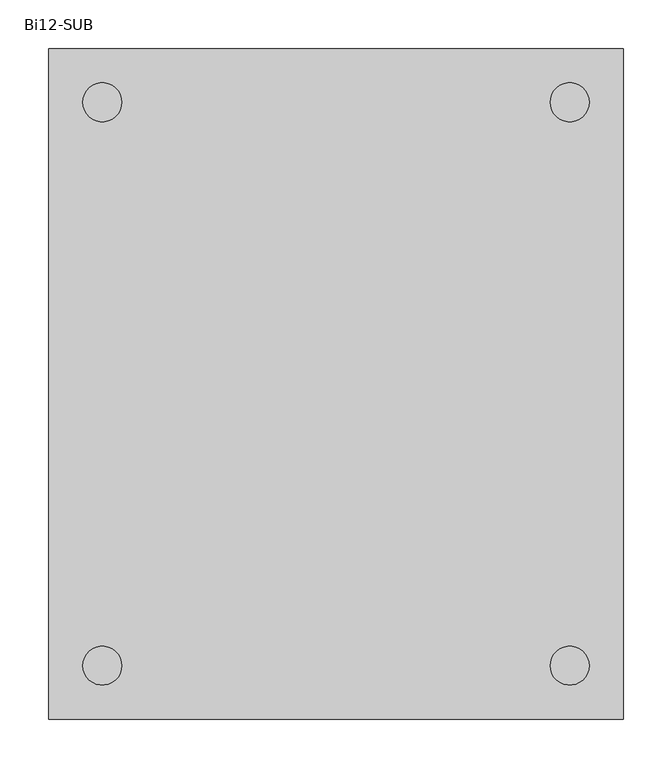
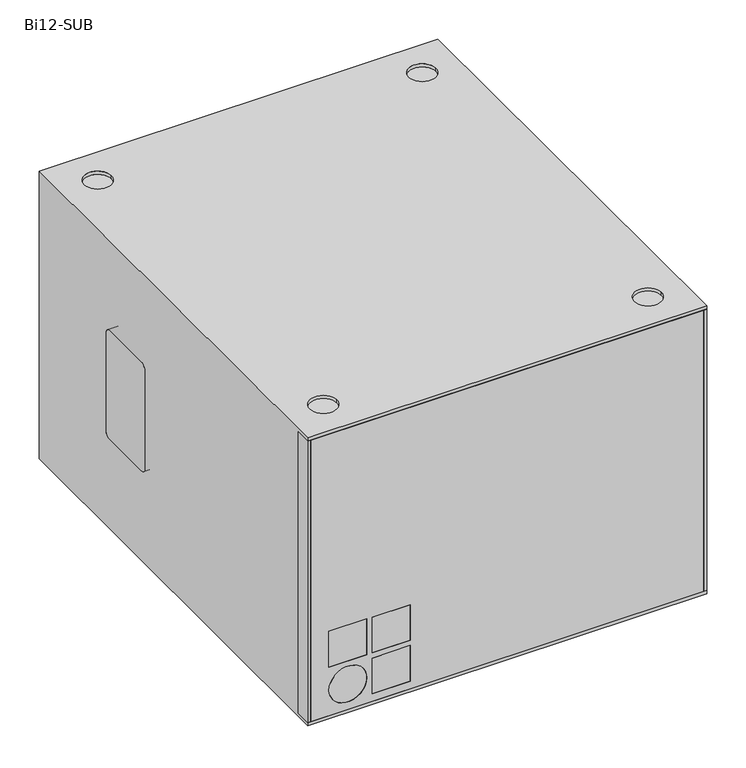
"""IFC4 building model written with IfcOpenShell, lengths in millimetres: proxy geometry, d&b Bi12-SUB : Bi12-SUB."""

from ifc_helpers import new_model, si_unit, point, frame, frame_2d, origin, origin_with_axes, place, context, project, spatial, polyline, circle_curve, trimmed, segment, composite_curve, outline, extrude, source, transform, mapped, element, save
from ifc_brep_helpers import plane_surface, revolved_surface, advanced_brep


def bi12_sub_8aa10a98(model_context):
    return source(origin(), model_context, "Body", "SolidModel", [
        extrude(outline(composite_curve([segment(polyline([(129.0, 2617.0), (129.0, 2538.0890284)]), True, "CONTINUOUS"), segment(trimmed(circle_curve(frame_2d((120.0, 2538.0890284)), 9.0), [point((129.0, 2538.0890284))], [point((117.6706286, 2529.3956959))], False, "CARTESIAN"), True, "CONTINUOUS"), segment(polyline([(117.6706286, 2529.3956959), (42.6706286, 2549.4918854)]), True, "CONTINUOUS"), segment(trimmed(circle_curve(frame_2d((45.0, 2558.1852178)), 9.0), [point((42.6706286, 2549.4918854))], [point((36.0, 2558.1852178))], False, "CARTESIAN"), True, "CONTINUOUS"), segment(polyline([(36.0, 2558.1852178), (36.0, 2617.0)]), True, "CONTINUOUS"), segment(trimmed(circle_curve(frame_2d((45.0, 2617.0)), 9.0), [point((36.0, 2617.0))], [point((45.0, 2626.0))], False, "CARTESIAN"), True, "CONTINUOUS"), segment(polyline([(45.0, 2626.0), (120.0, 2626.0)]), True, "CONTINUOUS"), segment(trimmed(circle_curve(frame_2d((120.0, 2617.0)), 9.0), [point((120.0, 2626.0))], [point((129.0, 2617.0))], False, "CARTESIAN"), True, "CONTINUOUS")], self_intersect=False)), frame((0.0, 622.2505973, 0.0), z_axis=(0.0, 1.0, 0.0), x_axis=(0.0, 0.0, 1.0)), (0.0, 0.0, 1.0), 5.0),
        extrude(outline(composite_curve([segment(trimmed(circle_curve(frame_2d((120.0, 2383.0)), 9.0), [point((129.0, 2383.0))], [point((120.0, 2374.0))], False, "CARTESIAN"), True, "CONTINUOUS"), segment(polyline([(120.0, 2374.0), (45.0, 2374.0)]), True, "CONTINUOUS"), segment(trimmed(circle_curve(frame_2d((45.0, 2383.0)), 9.0), [point((45.0, 2374.0))], [point((36.0, 2383.0))], False, "CARTESIAN"), True, "CONTINUOUS"), segment(polyline([(36.0, 2383.0), (36.0, 2441.8147822)]), True, "CONTINUOUS"), segment(trimmed(circle_curve(frame_2d((45.0, 2441.8147822)), 9.0), [point((36.0, 2441.8147822))], [point((42.6706286, 2450.5081146))], False, "CARTESIAN"), True, "CONTINUOUS"), segment(polyline([(42.6706286, 2450.5081146), (117.6706286, 2470.6043041)]), True, "CONTINUOUS"), segment(trimmed(circle_curve(frame_2d((120.0, 2461.9109716)), 9.0), [point((117.6706286, 2470.6043041))], [point((129.0, 2461.9109716))], False, "CARTESIAN"), True, "CONTINUOUS"), segment(polyline([(129.0, 2461.9109716), (129.0, 2383.0)]), True, "CONTINUOUS")], self_intersect=False)), frame((0.0, 622.2505973, 0.0), z_axis=(0.0, 1.0, 0.0), x_axis=(0.0, 0.0, 1.0)), (0.0, 0.0, 1.0), 5.0),
        extrude(outline(composite_curve([segment(trimmed(circle_curve(frame_2d((446.2505973, 306.2)), 9.0), [point((446.2505973, 315.2))], [point((455.2505973, 306.2))], False, "CARTESIAN"), True, "CONTINUOUS"), segment(polyline([(455.2505973, 306.2), (455.2505973, 154.2)]), True, "CONTINUOUS"), segment(trimmed(circle_curve(frame_2d((446.2505973, 154.2)), 9.0), [point((455.2505973, 154.2))], [point((446.2505973, 145.2))], False, "CARTESIAN"), True, "CONTINUOUS"), segment(polyline([(446.2505973, 145.2), (365.2505973, 145.2)]), True, "CONTINUOUS"), segment(trimmed(circle_curve(frame_2d((365.2505973, 154.2)), 9.0), [point((365.2505973, 145.2))], [point((356.2505973, 154.2))], False, "CARTESIAN"), True, "CONTINUOUS"), segment(polyline([(356.2505973, 154.2), (356.2505973, 306.2)]), True, "CONTINUOUS"), segment(trimmed(circle_curve(frame_2d((365.2505973, 306.2)), 9.0), [point((356.2505973, 306.2))], [point((365.2505973, 315.2))], False, "CARTESIAN"), True, "CONTINUOUS"), segment(polyline([(365.2505973, 315.2), (446.2505973, 315.2)]), True, "CONTINUOUS")], self_intersect=False)), frame((2205.0, 0.0, 0.0), z_axis=(1.0, 0.0, 0.0), x_axis=(0.0, 1.0, 0.0)), (0.0, 0.0, 1.0), 70.0),
        extrude(outline(composite_curve([segment(trimmed(circle_curve(frame_2d((446.2505973, 306.2)), 9.0), [point((446.2505973, 315.2))], [point((455.2505973, 306.2))], False, "CARTESIAN"), True, "CONTINUOUS"), segment(polyline([(455.2505973, 306.2), (455.2505973, 154.2)]), True, "CONTINUOUS"), segment(trimmed(circle_curve(frame_2d((446.2505973, 154.2)), 9.0), [point((455.2505973, 154.2))], [point((446.2505973, 145.2))], False, "CARTESIAN"), True, "CONTINUOUS"), segment(polyline([(446.2505973, 145.2), (365.2505973, 145.2)]), True, "CONTINUOUS"), segment(trimmed(circle_curve(frame_2d((365.2505973, 154.2)), 9.0), [point((365.2505973, 145.2))], [point((356.2505973, 154.2))], False, "CARTESIAN"), True, "CONTINUOUS"), segment(polyline([(356.2505973, 154.2), (356.2505973, 306.2)]), True, "CONTINUOUS"), segment(trimmed(circle_curve(frame_2d((365.2505973, 306.2)), 9.0), [point((356.2505973, 306.2))], [point((365.2505973, 315.2))], False, "CARTESIAN"), True, "CONTINUOUS"), segment(polyline([(365.2505973, 315.2), (446.2505973, 315.2)]), True, "CONTINUOUS")], self_intersect=False)), frame((2725.0, 0.0, 0.0), z_axis=(1.0, 0.0, 0.0), x_axis=(0.0, 1.0, 0.0)), (0.0, 0.0, 1.0), 70.0),
        advanced_brep(
        [(2790.5, -60.7494027, 10.0), (2790.5, -36.5494027, 10.0), (2790.5, -36.5494027, 450.0), (2790.5, -60.7494027, 450.0), (2209.5, -60.7494027, 10.0), (2209.5, -60.7494027, 450.0), (2209.5, -36.5494027, 450.0), (2209.5, -36.5494027, 10.0), (2292.5, -60.7494027, 141.5), (2292.5, -60.7494027, 85.5), (2236.5, -60.7494027, 85.5), (2236.5, -60.7494027, 141.5), (2356.5, -60.7494027, 141.5), (2356.5, -60.7494027, 85.5), (2300.5, -60.7494027, 85.5), (2300.5, -60.7494027, 141.5), (2356.5, -60.7494027, 77.5), (2356.5, -60.7494027, 21.5), (2300.5, -60.7494027, 21.5), (2300.5, -60.7494027, 77.5), (2292.5, -60.7494027, 49.5), (2236.5, -60.7494027, 49.5), (2292.5, -50.7494027, 141.5), (2236.5, -50.7494027, 141.5), (2236.5, -50.7494027, 85.5), (2292.5, -50.7494027, 85.5), (2356.5, -50.7494027, 141.5), (2300.5, -50.7494027, 141.5), (2300.5, -50.7494027, 85.5), (2356.5, -50.7494027, 85.5), (2356.5, -50.7494027, 77.5), (2300.5, -50.7494027, 77.5), (2300.5, -50.7494027, 21.5), (2356.5, -50.7494027, 21.5), (2292.5, -50.7494027, 49.5), (2236.5, -50.7494027, 49.5)],
        [
            (0, 1),
            (1, 2),
            (2, 3),
            (3, 0),
            (4, 5),
            (5, 6),
            (6, 7),
            (7, 4),
            (1, 7),
            (6, 2),
            (5, 3),
            (4, 0),
            (8, 9),
            (9, 10),
            (10, 11),
            (11, 8),
            (12, 13),
            (13, 14),
            (14, 15),
            (15, 12),
            (16, 17),
            (17, 18),
            (18, 19),
            (19, 16),
            (20, 21, circle_curve(frame((2264.5, -60.7494027, 49.5), z_axis=(0.0, 1.0, 0.0), x_axis=(-1.0, 0.0, 0.0)), 28.0)),
            (21, 20, circle_curve(frame((2264.5, -60.7494027, 49.5), z_axis=(0.0, 1.0, 0.0), x_axis=(-1.0, 0.0, 0.0)), 28.0)),
            (22, 23),
            (23, 24),
            (24, 25),
            (25, 22),
            (26, 27),
            (27, 28),
            (28, 29),
            (29, 26),
            (30, 31),
            (31, 32),
            (32, 33),
            (33, 30),
            (34, 35, circle_curve(frame((2264.5, -50.7494027, 49.5), z_axis=(0.0, -1.0, 0.0), x_axis=(-1.0, 0.0, 0.0)), 28.0)),
            (35, 34, circle_curve(frame((2264.5, -50.7494027, 49.5), z_axis=(0.0, -1.0, 0.0), x_axis=(-1.0, 0.0, 0.0)), 28.0)),
            (25, 9),
            (8, 22),
            (24, 10),
            (23, 11),
            (29, 13),
            (12, 26),
            (28, 14),
            (27, 15),
            (33, 17),
            (16, 30),
            (32, 18),
            (31, 19),
            (35, 21),
            (20, 34),
        ],
        [
            plane_surface(frame((2790.5, -36.5494027, 10.0), z_axis=(1.0, 0.0, 0.0), x_axis=(0.0, 1.0, 0.0))),
            plane_surface(frame((2209.5, -36.5494027, 10.0), z_axis=(-1.0, 0.0, 0.0), x_axis=(0.0, -1.0, 0.0))),
            plane_surface(frame((2790.5, -36.5494027, 10.0), z_axis=(0.0, 1.0, 0.0), x_axis=(-1.0, 0.0, 0.0))),
            plane_surface(frame((2790.5, -36.5494027, 450.0), z_axis=(0.0, 0.0, 1.0), x_axis=(-1.0, 0.0, 0.0))),
            plane_surface(frame((2790.5, -60.7494027, 450.0), z_axis=(0.0, -1.0, 0.0), x_axis=(-1.0, 0.0, 0.0))),
            plane_surface(frame((2292.5, -50.7494027, 131.0), z_axis=(0.0, -1.0, 0.0), x_axis=(0.0, 0.0, -1.0))),
            plane_surface(frame((2292.5, -50.7494027, 141.5), z_axis=(-1.0, 0.0, 0.0), x_axis=(0.0, -1.0, 0.0))),
            plane_surface(frame((2292.5, -50.7494027, 85.5), z_axis=(0.0, 0.0, 1.0), x_axis=(0.0, -1.0, 0.0))),
            plane_surface(frame((2236.5, -50.7494027, 85.5), z_axis=(1.0, 0.0, 0.0), x_axis=(0.0, -1.0, 0.0))),
            plane_surface(frame((2236.5, -50.7494027, 141.5), z_axis=(0.0, 0.0, -1.0), x_axis=(0.0, -1.0, 0.0))),
            plane_surface(frame((2356.5, -50.7494027, 141.5), z_axis=(-1.0, 0.0, 0.0), x_axis=(0.0, -1.0, 0.0))),
            plane_surface(frame((2356.5, -50.7494027, 85.5), z_axis=(0.0, 0.0, 1.0), x_axis=(0.0, -1.0, 0.0))),
            plane_surface(frame((2300.5, -50.7494027, 85.5), z_axis=(1.0, 0.0, 0.0), x_axis=(0.0, -1.0, 0.0))),
            plane_surface(frame((2300.5, -50.7494027, 141.5), z_axis=(0.0, 0.0, -1.0), x_axis=(0.0, -1.0, 0.0))),
            plane_surface(frame((2356.5, -50.7494027, 77.5), z_axis=(-1.0, 0.0, 0.0), x_axis=(0.0, -1.0, 0.0))),
            plane_surface(frame((2356.5, -50.7494027, 21.5), z_axis=(0.0, 0.0, 1.0), x_axis=(0.0, -1.0, 0.0))),
            plane_surface(frame((2300.5, -50.7494027, 21.5), z_axis=(1.0, 0.0, 0.0), x_axis=(0.0, -1.0, 0.0))),
            plane_surface(frame((2300.5, -50.7494027, 77.5), z_axis=(0.0, 0.0, -1.0), x_axis=(0.0, -1.0, 0.0))),
            revolved_surface(polyline([(2236.5, -50.7494027, 49.5), (2236.5, -60.7494027, 49.5)]), (2264.5, -60.7494027, 49.5), (0.0, 1.0, 0.0)),
            plane_surface(frame((2790.5, -60.7494027, 10.0), z_axis=(0.0, 0.0, -1.0), x_axis=(-1.0, 0.0, 0.0))),
        ],
        [
            (0, [[1, 2, 3, 4]]),
            (1, [[5, 6, 7, 8]]),
            (2, [[-2, 9, -7, 10]]),
            (3, [[-3, -10, -6, 11]]),
            (4, [[-4, -11, -5, 12], [13, 14, 15, 16], [17, 18, 19, 20], [21, 22, 23, 24], [25, 26]]),
            (5, [[27, 28, 29, 30]]),
            (5, [[31, 32, 33, 34]]),
            (5, [[35, 36, 37, 38]]),
            (5, [[39, 40]]),
            (6, [[-30, 41, -13, 42]]),
            (7, [[-29, 43, -14, -41]]),
            (8, [[-28, 44, -15, -43]]),
            (9, [[-27, -42, -16, -44]]),
            (10, [[-34, 45, -17, 46]]),
            (11, [[-33, 47, -18, -45]]),
            (12, [[-32, 48, -19, -47]]),
            (13, [[-31, -46, -20, -48]]),
            (14, [[-38, 49, -21, 50]]),
            (15, [[-37, 51, -22, -49]]),
            (16, [[-36, 52, -23, -51]]),
            (17, [[-35, -50, -24, -52]]),
            (18, [[-40, 53, -25, 54]]),
            (18, [[-39, -54, -26, -53]]),
            (19, [[-1, -12, -8, -9]]),
        ],
    ),
        extrude(outline(polyline([(2790.5, -60.7494027), (2790.5, -36.5494027), (2795.0, -36.5494027), (2795.0, -60.7494027), (2790.5, -60.7494027)])), frame((0.0, 0.0, 10.0), z_axis=(0.0, 0.0, 1.0), x_axis=(1.0, 0.0, 0.0)), (0.0, 0.0, 1.0), 440.0),
        extrude(outline(polyline([(2209.5, -36.5494027), (2209.5, -60.7494027), (2205.0, -60.7494027), (2205.0, -36.5494027), (2209.5, -36.5494027)])), frame((0.0, 0.0, 10.0), z_axis=(0.0, 0.0, 1.0), x_axis=(1.0, 0.0, 0.0)), (0.0, 0.0, 1.0), 440.0),
        extrude(outline(composite_curve([segment(trimmed(circle_curve(frame_2d((395.0, 2612.0)), 13.0), [point((395.0, 2625.0))], [point((408.0, 2612.0))], False, "CARTESIAN"), True, "CONTINUOUS"), segment(polyline([(408.0, 2612.0), (408.0, 2388.0)]), True, "CONTINUOUS"), segment(trimmed(circle_curve(frame_2d((395.0, 2388.0)), 13.0), [point((408.0, 2388.0))], [point((395.0, 2375.0))], False, "CARTESIAN"), True, "CONTINUOUS"), segment(polyline([(395.0, 2375.0), (145.0, 2375.0)]), True, "CONTINUOUS"), segment(trimmed(circle_curve(frame_2d((145.0, 2388.0)), 13.0), [point((145.0, 2375.0))], [point((132.0, 2388.0))], False, "CARTESIAN"), True, "CONTINUOUS"), segment(polyline([(132.0, 2388.0), (132.0, 2612.0)]), True, "CONTINUOUS"), segment(trimmed(circle_curve(frame_2d((145.0, 2612.0)), 13.0), [point((132.0, 2612.0))], [point((145.0, 2625.0))], False, "CARTESIAN"), True, "CONTINUOUS"), segment(polyline([(145.0, 2625.0), (395.0, 2625.0)]), True, "CONTINUOUS")], self_intersect=False)), frame((0.0, 622.2505973, 0.0), z_axis=(0.0, 1.0, 0.0), x_axis=(0.0, 0.0, 1.0)), (0.0, 0.0, 1.0), 5.0),
        extrude(outline(composite_curve([segment(trimmed(circle_curve(frame_2d((2260.0, 572.2505973)), 20.0), [point((2280.0, 572.2505973))], [point((2240.0, 572.2505973))], False, "CARTESIAN"), True, "CONTINUOUS"), segment(trimmed(circle_curve(frame_2d((2260.0, 572.2505973)), 20.0), [point((2240.0, 572.2505973))], [point((2280.0, 572.2505973))], False, "CARTESIAN"), True, "CONTINUOUS")], self_intersect=False)), origin_with_axes(), (0.0, 0.0, 1.0), 5.0),
        extrude(outline(composite_curve([segment(trimmed(circle_curve(frame_2d((2260.0, -5.7494027)), 20.0), [point((2280.0, -5.7494027))], [point((2240.0, -5.7494027))], False, "CARTESIAN"), True, "CONTINUOUS"), segment(trimmed(circle_curve(frame_2d((2260.0, -5.7494027)), 20.0), [point((2240.0, -5.7494027))], [point((2280.0, -5.7494027))], False, "CARTESIAN"), True, "CONTINUOUS")], self_intersect=False)), origin_with_axes(), (0.0, 0.0, 1.0), 5.0),
        extrude(outline(composite_curve([segment(trimmed(circle_curve(frame_2d((2740.0, 572.2505973)), 20.0), [point((2760.0, 572.2505973))], [point((2720.0, 572.2505973))], False, "CARTESIAN"), True, "CONTINUOUS"), segment(trimmed(circle_curve(frame_2d((2740.0, 572.2505973)), 20.0), [point((2720.0, 572.2505973))], [point((2760.0, 572.2505973))], False, "CARTESIAN"), True, "CONTINUOUS")], self_intersect=False)), origin_with_axes(), (0.0, 0.0, 1.0), 5.0),
        extrude(outline(composite_curve([segment(trimmed(circle_curve(frame_2d((2740.0, -5.7494027)), 20.0), [point((2760.0, -5.7494027))], [point((2720.0, -5.7494027))], False, "CARTESIAN"), True, "CONTINUOUS"), segment(trimmed(circle_curve(frame_2d((2740.0, -5.7494027)), 20.0), [point((2720.0, -5.7494027))], [point((2760.0, -5.7494027))], False, "CARTESIAN"), True, "CONTINUOUS")], self_intersect=False)), origin_with_axes(), (0.0, 0.0, 1.0), 5.0),
        extrude(outline(polyline([(2236.5, -50.7494027), (2292.5, -50.7494027), (2292.5, -60.7494027), (2236.5, -60.7494027), (2236.5, -50.7494027)])), frame((0.0, 0.0, 85.5), z_axis=(0.0, 0.0, 1.0), x_axis=(1.0, 0.0, 0.0)), (0.0, 0.0, 1.0), 56.0),
        extrude(outline(polyline([(2300.5, -50.7494027), (2356.5, -50.7494027), (2356.5, -60.7494027), (2300.5, -60.7494027), (2300.5, -50.7494027)])), frame((0.0, 0.0, 85.5), z_axis=(0.0, 0.0, 1.0), x_axis=(1.0, 0.0, 0.0)), (0.0, 0.0, 1.0), 56.0),
        extrude(outline(polyline([(2300.5, -50.7494027), (2356.5, -50.7494027), (2356.5, -60.7494027), (2300.5, -60.7494027), (2300.5, -50.7494027)])), frame((0.0, 0.0, 21.5), z_axis=(0.0, 0.0, 1.0), x_axis=(1.0, 0.0, 0.0)), (0.0, 0.0, 1.0), 56.0),
        extrude(outline(composite_curve([segment(trimmed(circle_curve(frame_2d((49.5, 2264.5)), 28.0), [point((49.5, 2292.5))], [point((49.5, 2236.5))], False, "CARTESIAN"), True, "CONTINUOUS"), segment(trimmed(circle_curve(frame_2d((49.5, 2264.5)), 28.0), [point((49.5, 2236.5))], [point((49.5, 2292.5))], False, "CARTESIAN"), True, "CONTINUOUS")], self_intersect=False)), frame((0.0, -60.7494027, 0.0), z_axis=(0.0, 1.0, 0.0), x_axis=(0.0, 0.0, 1.0)), (0.0, 0.0, 1.0), 10.0),
        advanced_brep(
        [(2795.0, -60.7494027, 5.0), (2205.0, -60.7494027, 5.0), (2205.0, 627.2505973, 5.0), (2795.0, 627.2505973, 5.0), (2240.0, 572.2505973, 450.0), (2280.0, 572.2505973, 450.0), (2240.0, -5.7494027, 450.0), (2280.0, -5.7494027, 450.0), (2720.0, 572.2505973, 450.0), (2760.0, 572.2505973, 450.0), (2720.0, -5.7494027, 450.0), (2760.0, -5.7494027, 450.0), (2795.0, 627.2505973, 455.0), (2205.0, 627.2505973, 455.0), (2205.0, -60.7494027, 455.0), (2795.0, -60.7494027, 455.0), (2280.0, 572.2505973, 455.0), (2240.0, 572.2505973, 455.0), (2280.0, -5.7494027, 455.0), (2240.0, -5.7494027, 455.0), (2760.0, 572.2505973, 455.0), (2720.0, 572.2505973, 455.0), (2760.0, -5.7494027, 455.0), (2720.0, -5.7494027, 455.0), (2718.5, 622.2505973, 271.0), (2729.0, 622.2505973, 260.5), (2729.0, 622.2505973, 159.5), (2718.5, 622.2505973, 149.0), (2674.5, 622.2505973, 149.0), (2664.0, 622.2505973, 159.5), (2664.0, 622.2505973, 260.5), (2674.5, 622.2505973, 271.0), (2281.5, 622.2505973, 271.0), (2325.5, 622.2505973, 271.0), (2336.0, 622.2505973, 260.5), (2336.0, 622.2505973, 159.5), (2325.5, 622.2505973, 149.0), (2281.5, 622.2505973, 149.0), (2271.0, 622.2505973, 159.5), (2271.0, 622.2505973, 260.5), (2795.0, -36.5494027, 450.0), (2205.0, -36.5494027, 450.0), (2205.0, -36.5494027, 10.0), (2795.0, -36.5494027, 10.0), (2725.0, 455.2505973, 306.2), (2725.0, 446.2505973, 315.2), (2725.0, 365.2505973, 315.2), (2725.0, 356.2505973, 306.2), (2725.0, 356.2505973, 154.2), (2725.0, 365.2505973, 145.2), (2725.0, 446.2505973, 145.2), (2725.0, 455.2505973, 154.2), (2795.0, -60.7494027, 450.0), (2205.0, -60.7494027, 450.0), (2325.5, 627.2505973, 271.0), (2281.5, 627.2505973, 271.0), (2271.0, 627.2505973, 260.5), (2271.0, 627.2505973, 159.5), (2281.5, 627.2505973, 149.0), (2325.5, 627.2505973, 149.0), (2336.0, 627.2505973, 159.5), (2336.0, 627.2505973, 260.5), (2729.0, 627.2505973, 260.5), (2718.5, 627.2505973, 271.0), (2674.5, 627.2505973, 271.0), (2664.0, 627.2505973, 260.5), (2664.0, 627.2505973, 159.5), (2674.5, 627.2505973, 149.0), (2718.5, 627.2505973, 149.0), (2729.0, 627.2505973, 159.5), (2625.0, 627.2505973, 145.0), (2625.0, 627.2505973, 395.0), (2612.0, 627.2505973, 408.0), (2388.0, 627.2505973, 408.0), (2375.0, 627.2505973, 395.0), (2375.0, 627.2505973, 145.0), (2388.0, 627.2505973, 132.0), (2612.0, 627.2505973, 132.0), (2549.4918854, 627.2505973, 42.6706286), (2558.1852178, 627.2505973, 36.0), (2617.0, 627.2505973, 36.0), (2626.0, 627.2505973, 45.0), (2626.0, 627.2505973, 120.0), (2617.0, 627.2505973, 129.0), (2538.0890284, 627.2505973, 129.0), (2529.3956959, 627.2505973, 117.6706286), (2450.5081146, 627.2505973, 42.6706286), (2470.6043041, 627.2505973, 117.6706286), (2461.9109716, 627.2505973, 129.0), (2383.0, 627.2505973, 129.0), (2374.0, 627.2505973, 120.0), (2374.0, 627.2505973, 45.0), (2383.0, 627.2505973, 36.0), (2441.8147822, 627.2505973, 36.0), (2275.0, 446.2505973, 315.2), (2275.0, 455.2505973, 306.2), (2275.0, 455.2505973, 154.2), (2275.0, 446.2505973, 145.2), (2275.0, 365.2505973, 145.2), (2275.0, 356.2505973, 154.2), (2275.0, 356.2505973, 306.2), (2275.0, 365.2505973, 315.2), (2795.0, -60.7494027, 10.0), (2795.0, 446.2505973, 315.2), (2795.0, 455.2505973, 306.2), (2795.0, 455.2505973, 154.2), (2795.0, 446.2505973, 145.2), (2795.0, 365.2505973, 145.2), (2795.0, 356.2505973, 154.2), (2795.0, 356.2505973, 306.2), (2795.0, 365.2505973, 315.2), (2205.0, -60.7494027, 10.0), (2205.0, 446.2505973, 315.2), (2205.0, 365.2505973, 315.2), (2205.0, 356.2505973, 306.2), (2205.0, 356.2505973, 154.2), (2205.0, 365.2505973, 145.2), (2205.0, 446.2505973, 145.2), (2205.0, 455.2505973, 154.2), (2205.0, 455.2505973, 306.2), (2625.0, 622.2505973, 395.0), (2625.0, 622.2505973, 145.0), (2612.0, 622.2505973, 132.0), (2388.0, 622.2505973, 132.0), (2375.0, 622.2505973, 145.0), (2375.0, 622.2505973, 395.0), (2388.0, 622.2505973, 408.0), (2612.0, 622.2505973, 408.0), (2558.1852178, 622.2505973, 36.0), (2549.4918854, 622.2505973, 42.6706286), (2529.3956959, 622.2505973, 117.6706286), (2538.0890284, 622.2505973, 129.0), (2617.0, 622.2505973, 129.0), (2626.0, 622.2505973, 120.0), (2626.0, 622.2505973, 45.0), (2617.0, 622.2505973, 36.0), (2470.6043041, 622.2505973, 117.6706286), (2450.5081146, 622.2505973, 42.6706286), (2441.8147822, 622.2505973, 36.0), (2383.0, 622.2505973, 36.0), (2374.0, 622.2505973, 45.0), (2374.0, 622.2505973, 120.0), (2383.0, 622.2505973, 129.0), (2461.9109716, 622.2505973, 129.0)],
        [
            (0, 1),
            (1, 2),
            (2, 3),
            (3, 0),
            (4, 5, circle_curve(frame((2260.0, 572.2505973, 450.0), z_axis=(0.0, 0.0, 1.0), x_axis=(-1.0, 0.0, 0.0)), 20.0)),
            (5, 4, circle_curve(frame((2260.0, 572.2505973, 450.0), z_axis=(0.0, 0.0, 1.0), x_axis=(-1.0, 0.0, 0.0)), 20.0)),
            (6, 7, circle_curve(frame((2260.0, -5.7494027, 450.0), z_axis=(0.0, 0.0, 1.0), x_axis=(-1.0, 0.0, 0.0)), 20.0)),
            (7, 6, circle_curve(frame((2260.0, -5.7494027, 450.0), z_axis=(0.0, 0.0, 1.0), x_axis=(-1.0, 0.0, 0.0)), 20.0)),
            (8, 9, circle_curve(frame((2740.0, 572.2505973, 450.0), z_axis=(0.0, 0.0, 1.0), x_axis=(-1.0, 0.0, 0.0)), 20.0)),
            (9, 8, circle_curve(frame((2740.0, 572.2505973, 450.0), z_axis=(0.0, 0.0, 1.0), x_axis=(-1.0, 0.0, 0.0)), 20.0)),
            (10, 11, circle_curve(frame((2740.0, -5.7494027, 450.0), z_axis=(0.0, 0.0, 1.0), x_axis=(-1.0, 0.0, 0.0)), 20.0)),
            (11, 10, circle_curve(frame((2740.0, -5.7494027, 450.0), z_axis=(0.0, 0.0, 1.0), x_axis=(-1.0, 0.0, 0.0)), 20.0)),
            (12, 13),
            (13, 14),
            (14, 15),
            (15, 12),
            (16, 17, circle_curve(frame((2260.0, 572.2505973, 455.0), z_axis=(0.0, 0.0, -1.0), x_axis=(-1.0, 0.0, 0.0)), 20.0)),
            (17, 16, circle_curve(frame((2260.0, 572.2505973, 455.0), z_axis=(0.0, 0.0, -1.0), x_axis=(-1.0, 0.0, 0.0)), 20.0)),
            (18, 19, circle_curve(frame((2260.0, -5.7494027, 455.0), z_axis=(0.0, 0.0, -1.0), x_axis=(-1.0, 0.0, 0.0)), 20.0)),
            (19, 18, circle_curve(frame((2260.0, -5.7494027, 455.0), z_axis=(0.0, 0.0, -1.0), x_axis=(-1.0, 0.0, 0.0)), 20.0)),
            (20, 21, circle_curve(frame((2740.0, 572.2505973, 455.0), z_axis=(0.0, 0.0, -1.0), x_axis=(-1.0, 0.0, 0.0)), 20.0)),
            (21, 20, circle_curve(frame((2740.0, 572.2505973, 455.0), z_axis=(0.0, 0.0, -1.0), x_axis=(-1.0, 0.0, 0.0)), 20.0)),
            (22, 23, circle_curve(frame((2740.0, -5.7494027, 455.0), z_axis=(0.0, 0.0, -1.0), x_axis=(-1.0, 0.0, 0.0)), 20.0)),
            (23, 22, circle_curve(frame((2740.0, -5.7494027, 455.0), z_axis=(0.0, 0.0, -1.0), x_axis=(-1.0, 0.0, 0.0)), 20.0)),
            (24, 25, circle_curve(frame((2718.5, 622.2505973, 260.5), z_axis=(0.0, 1.0, 0.0), x_axis=(-1.0, 0.0, 0.0)), 10.5)),
            (25, 26),
            (26, 27, circle_curve(frame((2718.5, 622.2505973, 159.5), z_axis=(0.0, 1.0, 0.0), x_axis=(-1.0, 0.0, 0.0)), 10.5)),
            (27, 28),
            (28, 29, circle_curve(frame((2674.5, 622.2505973, 159.5), z_axis=(0.0, 1.0, 0.0), x_axis=(-1.0, 0.0, 0.0)), 10.5)),
            (29, 30),
            (30, 31, circle_curve(frame((2674.5, 622.2505973, 260.5), z_axis=(0.0, 1.0, 0.0), x_axis=(-1.0, 0.0, 0.0)), 10.5)),
            (31, 24),
            (32, 33),
            (33, 34, circle_curve(frame((2325.5, 622.2505973, 260.5), z_axis=(0.0, 1.0, 0.0), x_axis=(-1.0, 0.0, 0.0)), 10.5)),
            (34, 35),
            (35, 36, circle_curve(frame((2325.5, 622.2505973, 159.5), z_axis=(0.0, 1.0, 0.0), x_axis=(-1.0, 0.0, 0.0)), 10.5)),
            (36, 37),
            (37, 38, circle_curve(frame((2281.5, 622.2505973, 159.5), z_axis=(0.0, 1.0, 0.0), x_axis=(-1.0, 0.0, 0.0)), 10.5)),
            (38, 39),
            (39, 32, circle_curve(frame((2281.5, 622.2505973, 260.5), z_axis=(0.0, 1.0, 0.0), x_axis=(-1.0, 0.0, 0.0)), 10.5)),
            (40, 41),
            (41, 42),
            (42, 43),
            (43, 40),
            (44, 45, circle_curve(frame((2725.0, 446.2505973, 306.2), z_axis=(1.0, 0.0, 0.0), x_axis=(0.0, 0.0, 1.0)), 9.0)),
            (45, 46),
            (46, 47, circle_curve(frame((2725.0, 365.2505973, 306.2), z_axis=(1.0, 0.0, 0.0), x_axis=(0.0, 0.0, 1.0)), 9.0)),
            (47, 48),
            (48, 49, circle_curve(frame((2725.0, 365.2505973, 154.2), z_axis=(1.0, 0.0, 0.0), x_axis=(0.0, 0.0, 1.0)), 9.0)),
            (49, 50),
            (50, 51, circle_curve(frame((2725.0, 446.2505973, 154.2), z_axis=(1.0, 0.0, 0.0), x_axis=(0.0, 0.0, 1.0)), 9.0)),
            (51, 44),
            (52, 53),
            (53, 41),
            (40, 52),
            (2, 13),
            (12, 3),
            (54, 55),
            (55, 56, circle_curve(frame((2281.5, 627.2505973, 260.5), z_axis=(0.0, -1.0, 0.0), x_axis=(-1.0, 0.0, 0.0)), 10.5)),
            (56, 57),
            (57, 58, circle_curve(frame((2281.5, 627.2505973, 159.5), z_axis=(0.0, -1.0, 0.0), x_axis=(-1.0, 0.0, 0.0)), 10.5)),
            (58, 59),
            (59, 60, circle_curve(frame((2325.5, 627.2505973, 159.5), z_axis=(0.0, -1.0, 0.0), x_axis=(-1.0, 0.0, 0.0)), 10.5)),
            (60, 61),
            (61, 54, circle_curve(frame((2325.5, 627.2505973, 260.5), z_axis=(0.0, -1.0, 0.0), x_axis=(-1.0, 0.0, 0.0)), 10.5)),
            (62, 63, circle_curve(frame((2718.5, 627.2505973, 260.5), z_axis=(0.0, -1.0, 0.0), x_axis=(-1.0, 0.0, 0.0)), 10.5)),
            (63, 64),
            (64, 65, circle_curve(frame((2674.5, 627.2505973, 260.5), z_axis=(0.0, -1.0, 0.0), x_axis=(-1.0, 0.0, 0.0)), 10.5)),
            (65, 66),
            (66, 67, circle_curve(frame((2674.5, 627.2505973, 159.5), z_axis=(0.0, -1.0, 0.0), x_axis=(-1.0, 0.0, 0.0)), 10.5)),
            (67, 68),
            (68, 69, circle_curve(frame((2718.5, 627.2505973, 159.5), z_axis=(0.0, -1.0, 0.0), x_axis=(-1.0, 0.0, 0.0)), 10.5)),
            (69, 62),
            (70, 71),
            (71, 72, circle_curve(frame((2612.0, 627.2505973, 395.0), z_axis=(0.0, -1.0, 0.0), x_axis=(-1.0, 0.0, 0.0)), 13.0)),
            (72, 73),
            (73, 74, circle_curve(frame((2388.0, 627.2505973, 395.0), z_axis=(0.0, -1.0, 0.0), x_axis=(-1.0, 0.0, 0.0)), 13.0)),
            (74, 75),
            (75, 76, circle_curve(frame((2388.0, 627.2505973, 145.0), z_axis=(0.0, -1.0, 0.0), x_axis=(-1.0, 0.0, 0.0)), 13.0)),
            (76, 77),
            (77, 70, circle_curve(frame((2612.0, 627.2505973, 145.0), z_axis=(0.0, -1.0, 0.0), x_axis=(-1.0, 0.0, 0.0)), 13.0)),
            (78, 79, circle_curve(frame((2558.1852178, 627.2505973, 45.0), z_axis=(0.0, -1.0, 0.0), x_axis=(-1.0, 0.0, 0.0)), 9.0)),
            (79, 80),
            (80, 81, circle_curve(frame((2617.0, 627.2505973, 45.0), z_axis=(0.0, -1.0, 0.0), x_axis=(-1.0, 0.0, 0.0)), 9.0)),
            (81, 82),
            (82, 83, circle_curve(frame((2617.0, 627.2505973, 120.0), z_axis=(0.0, -1.0, 0.0), x_axis=(-1.0, 0.0, 0.0)), 9.0)),
            (83, 84),
            (84, 85, circle_curve(frame((2538.0890284, 627.2505973, 120.0), z_axis=(0.0, -1.0, 0.0), x_axis=(-1.0, 0.0, 0.0)), 9.0)),
            (85, 78),
            (86, 87),
            (87, 88, circle_curve(frame((2461.9109716, 627.2505973, 120.0), z_axis=(0.0, -1.0, 0.0), x_axis=(-1.0, 0.0, 0.0)), 9.0)),
            (88, 89),
            (89, 90, circle_curve(frame((2383.0, 627.2505973, 120.0), z_axis=(0.0, -1.0, 0.0), x_axis=(-1.0, 0.0, 0.0)), 9.0)),
            (90, 91),
            (91, 92, circle_curve(frame((2383.0, 627.2505973, 45.0), z_axis=(0.0, -1.0, 0.0), x_axis=(-1.0, 0.0, 0.0)), 9.0)),
            (92, 93),
            (93, 86, circle_curve(frame((2441.8147822, 627.2505973, 45.0), z_axis=(0.0, -1.0, 0.0), x_axis=(-1.0, 0.0, 0.0)), 9.0)),
            (94, 95, circle_curve(frame((2275.0, 446.2505973, 306.2), z_axis=(-1.0, 0.0, 0.0), x_axis=(0.0, 0.0, 1.0)), 9.0)),
            (95, 96),
            (96, 97, circle_curve(frame((2275.0, 446.2505973, 154.2), z_axis=(-1.0, 0.0, 0.0), x_axis=(0.0, 0.0, 1.0)), 9.0)),
            (97, 98),
            (98, 99, circle_curve(frame((2275.0, 365.2505973, 154.2), z_axis=(-1.0, 0.0, 0.0), x_axis=(0.0, 0.0, 1.0)), 9.0)),
            (99, 100),
            (100, 101, circle_curve(frame((2275.0, 365.2505973, 306.2), z_axis=(-1.0, 0.0, 0.0), x_axis=(0.0, 0.0, 1.0)), 9.0)),
            (101, 94),
            (15, 52),
            (43, 102),
            (102, 0),
            (103, 104, circle_curve(frame((2795.0, 446.2505973, 306.2), z_axis=(-1.0, 0.0, 0.0), x_axis=(0.0, 0.0, 1.0)), 9.0)),
            (104, 105),
            (105, 106, circle_curve(frame((2795.0, 446.2505973, 154.2), z_axis=(-1.0, 0.0, 0.0), x_axis=(0.0, 0.0, 1.0)), 9.0)),
            (106, 107),
            (107, 108, circle_curve(frame((2795.0, 365.2505973, 154.2), z_axis=(-1.0, 0.0, 0.0), x_axis=(0.0, 0.0, 1.0)), 9.0)),
            (108, 109),
            (109, 110, circle_curve(frame((2795.0, 365.2505973, 306.2), z_axis=(-1.0, 0.0, 0.0), x_axis=(0.0, 0.0, 1.0)), 9.0)),
            (110, 103),
            (103, 45),
            (44, 104),
            (51, 105),
            (50, 106),
            (49, 107),
            (48, 108),
            (47, 109),
            (46, 110),
            (1, 111),
            (111, 42),
            (53, 14),
            (112, 113),
            (113, 114, circle_curve(frame((2205.0, 365.2505973, 306.2), z_axis=(1.0, 0.0, 0.0), x_axis=(0.0, 0.0, 1.0)), 9.0)),
            (114, 115),
            (115, 116, circle_curve(frame((2205.0, 365.2505973, 154.2), z_axis=(1.0, 0.0, 0.0), x_axis=(0.0, 0.0, 1.0)), 9.0)),
            (116, 117),
            (117, 118, circle_curve(frame((2205.0, 446.2505973, 154.2), z_axis=(1.0, 0.0, 0.0), x_axis=(0.0, 0.0, 1.0)), 9.0)),
            (118, 119),
            (119, 112, circle_curve(frame((2205.0, 446.2505973, 306.2), z_axis=(1.0, 0.0, 0.0), x_axis=(0.0, 0.0, 1.0)), 9.0)),
            (119, 95),
            (94, 112),
            (118, 96),
            (117, 97),
            (116, 98),
            (115, 99),
            (114, 100),
            (113, 101),
            (24, 63),
            (62, 25),
            (69, 26),
            (68, 27),
            (67, 28),
            (66, 29),
            (65, 30),
            (64, 31),
            (32, 55),
            (54, 33),
            (61, 34),
            (60, 35),
            (59, 36),
            (58, 37),
            (57, 38),
            (56, 39),
            (120, 121),
            (121, 122, circle_curve(frame((2612.0, 622.2505973, 145.0), z_axis=(0.0, 1.0, 0.0), x_axis=(-1.0, 0.0, 0.0)), 13.0)),
            (122, 123),
            (123, 124, circle_curve(frame((2388.0, 622.2505973, 145.0), z_axis=(0.0, 1.0, 0.0), x_axis=(-1.0, 0.0, 0.0)), 13.0)),
            (124, 125),
            (125, 126, circle_curve(frame((2388.0, 622.2505973, 395.0), z_axis=(0.0, 1.0, 0.0), x_axis=(-1.0, 0.0, 0.0)), 13.0)),
            (126, 127),
            (127, 120, circle_curve(frame((2612.0, 622.2505973, 395.0), z_axis=(0.0, 1.0, 0.0), x_axis=(-1.0, 0.0, 0.0)), 13.0)),
            (128, 129, circle_curve(frame((2558.1852178, 622.2505973, 45.0), z_axis=(0.0, 1.0, 0.0), x_axis=(-1.0, 0.0, 0.0)), 9.0)),
            (129, 130),
            (130, 131, circle_curve(frame((2538.0890284, 622.2505973, 120.0), z_axis=(0.0, 1.0, 0.0), x_axis=(-1.0, 0.0, 0.0)), 9.0)),
            (131, 132),
            (132, 133, circle_curve(frame((2617.0, 622.2505973, 120.0), z_axis=(0.0, 1.0, 0.0), x_axis=(-1.0, 0.0, 0.0)), 9.0)),
            (133, 134),
            (134, 135, circle_curve(frame((2617.0, 622.2505973, 45.0), z_axis=(0.0, 1.0, 0.0), x_axis=(-1.0, 0.0, 0.0)), 9.0)),
            (135, 128),
            (136, 137),
            (137, 138, circle_curve(frame((2441.8147822, 622.2505973, 45.0), z_axis=(0.0, 1.0, 0.0), x_axis=(-1.0, 0.0, 0.0)), 9.0)),
            (138, 139),
            (139, 140, circle_curve(frame((2383.0, 622.2505973, 45.0), z_axis=(0.0, 1.0, 0.0), x_axis=(-1.0, 0.0, 0.0)), 9.0)),
            (140, 141),
            (141, 142, circle_curve(frame((2383.0, 622.2505973, 120.0), z_axis=(0.0, 1.0, 0.0), x_axis=(-1.0, 0.0, 0.0)), 9.0)),
            (142, 143),
            (143, 136, circle_curve(frame((2461.9109716, 622.2505973, 120.0), z_axis=(0.0, 1.0, 0.0), x_axis=(-1.0, 0.0, 0.0)), 9.0)),
            (120, 71),
            (70, 121),
            (77, 122),
            (76, 123),
            (126, 73),
            (72, 127),
            (125, 74),
            (75, 124),
            (128, 79),
            (78, 129),
            (85, 130),
            (84, 131),
            (83, 132),
            (82, 133),
            (81, 134),
            (80, 135),
            (136, 87),
            (86, 137),
            (93, 138),
            (92, 139),
            (91, 140),
            (90, 141),
            (89, 142),
            (88, 143),
            (111, 102),
            (16, 5),
            (4, 17),
            (18, 7),
            (6, 19),
            (20, 9),
            (8, 21),
            (22, 11),
            (10, 23),
        ],
        [
            plane_surface(frame((2725.0, 852.7005973, 5.0), z_axis=(0.0, 0.0, -1.0), x_axis=(0.0, -1.0, 0.0))),
            plane_surface(frame((2725.0, 852.7005973, 450.0), z_axis=(0.0, 0.0, 1.0), x_axis=(0.0, 1.0, 0.0))),
            plane_surface(frame((2347.890625, 627.2505973, 455.0), z_axis=(0.0, 0.0, 1.0), x_axis=(-1.0, 0.0, 0.0))),
            plane_surface(frame((2708.0, 622.2505973, 260.5), z_axis=(0.0, 1.0, 0.0), x_axis=(0.0, 0.0, -1.0))),
            plane_surface(frame((2275.0, -36.5494027, 450.0), z_axis=(0.0, -1.0, 0.0), x_axis=(0.0, 0.0, -1.0))),
            plane_surface(frame((2725.0, -36.5494027, 450.0), z_axis=(1.0, 0.0, 0.0), x_axis=(0.0, 0.0, -1.0))),
            plane_surface(frame((2347.890625, 627.2505973, 450.0), z_axis=(0.0, 0.0, -1.0), x_axis=(1.0, 0.0, 0.0))),
            plane_surface(frame((2725.0, 627.2505973, 450.0), z_axis=(0.0, 1.0, 0.0), x_axis=(0.0, 0.0, -1.0))),
            plane_surface(frame((2275.0, 627.2505973, 450.0), z_axis=(-1.0, 0.0, 0.0), x_axis=(0.0, 0.0, -1.0))),
            plane_surface(frame((2795.0, 1093.4505973, 450.0), z_axis=(1.0, 0.0, 0.0), x_axis=(0.0, -1.0, 0.0))),
            revolved_surface(polyline([(2795.0, 446.2505973, 315.2), (2725.0, 446.2505973, 315.2)]), (2795.0, 446.2505973, 306.2), (1.0, 0.0, 0.0)),
            plane_surface(frame((2725.0, 455.2505973, 154.2), z_axis=(0.0, -1.0, 0.0), x_axis=(1.0, 0.0, 0.0))),
            revolved_surface(polyline([(2795.0, 446.2505973, 163.2), (2725.0, 446.2505973, 163.2)]), (2795.0, 446.2505973, 154.2), (1.0, 0.0, 0.0)),
            plane_surface(frame((2725.0, 365.2505973, 145.2), z_axis=(0.0, 0.0, 1.0), x_axis=(1.0, 0.0, 0.0))),
            revolved_surface(polyline([(2795.0, 365.2505973, 163.2), (2725.0, 365.2505973, 163.2)]), (2795.0, 365.2505973, 154.2), (1.0, 0.0, 0.0)),
            plane_surface(frame((2725.0, 356.2505973, 306.2), z_axis=(0.0, 1.0, 0.0), x_axis=(1.0, 0.0, 0.0))),
            revolved_surface(polyline([(2795.0, 365.2505973, 315.2), (2725.0, 365.2505973, 315.2)]), (2795.0, 365.2505973, 306.2), (1.0, 0.0, 0.0)),
            plane_surface(frame((2725.0, 446.2505973, 315.2), z_axis=(0.0, 0.0, -1.0), x_axis=(1.0, 0.0, 0.0))),
            plane_surface(frame((2205.0, -36.5494027, -19.8), z_axis=(-1.0, 0.0, 0.0), x_axis=(0.0, 0.0, 1.0))),
            revolved_surface(polyline([(2205.0, 446.2505973, 315.2), (2275.0, 446.2505973, 315.2)]), (2205.0, 446.2505973, 306.2), (-1.0, 0.0, 0.0)),
            plane_surface(frame((2275.0, 455.2505973, 306.2), z_axis=(0.0, -1.0, 0.0), x_axis=(-1.0, 0.0, 0.0))),
            revolved_surface(polyline([(2205.0, 446.2505973, 163.2), (2275.0, 446.2505973, 163.2)]), (2205.0, 446.2505973, 154.2), (-1.0, 0.0, 0.0)),
            plane_surface(frame((2275.0, 446.2505973, 145.2), z_axis=(0.0, 0.0, 1.0), x_axis=(-1.0, 0.0, 0.0))),
            revolved_surface(polyline([(2205.0, 365.2505973, 163.2), (2275.0, 365.2505973, 163.2)]), (2205.0, 365.2505973, 154.2), (-1.0, 0.0, 0.0)),
            plane_surface(frame((2275.0, 356.2505973, 154.2), z_axis=(0.0, 1.0, 0.0), x_axis=(-1.0, 0.0, 0.0))),
            revolved_surface(polyline([(2205.0, 365.2505973, 315.2), (2275.0, 365.2505973, 315.2)]), (2205.0, 365.2505973, 306.2), (-1.0, 0.0, 0.0)),
            plane_surface(frame((2275.0, 365.2505973, 315.2), z_axis=(0.0, 0.0, -1.0), x_axis=(-1.0, 0.0, 0.0))),
            revolved_surface(polyline([(2708.0, 627.2505973, 260.5), (2708.0, 622.2505973, 260.5)]), (2718.5, 622.2505973, 260.5), (0.0, 1.0, 0.0)),
            plane_surface(frame((2729.0, 627.2505973, 260.5), z_axis=(-1.0, 0.0, 0.0), x_axis=(0.0, -1.0, 0.0))),
            revolved_surface(polyline([(2708.0, 627.2505973, 159.5), (2708.0, 622.2505973, 159.5)]), (2718.5, 622.2505973, 159.5), (0.0, 1.0, 0.0)),
            plane_surface(frame((2718.5, 627.2505973, 149.0), z_axis=(0.0, 0.0, 1.0), x_axis=(0.0, -1.0, 0.0))),
            revolved_surface(polyline([(2664.0, 627.2505973, 159.5), (2664.0, 622.2505973, 159.5)]), (2674.5, 622.2505973, 159.5), (0.0, 1.0, 0.0)),
            plane_surface(frame((2664.0, 627.2505973, 159.5), z_axis=(1.0, 0.0, 0.0), x_axis=(0.0, -1.0, 0.0))),
            revolved_surface(polyline([(2664.0, 627.2505973, 260.5), (2664.0, 622.2505973, 260.5)]), (2674.5, 622.2505973, 260.5), (0.0, 1.0, 0.0)),
            plane_surface(frame((2674.5, 627.2505973, 271.0), z_axis=(0.0, 0.0, -1.0), x_axis=(0.0, -1.0, 0.0))),
            plane_surface(frame((2281.5, 627.2505973, 271.0), z_axis=(0.0, 0.0, -1.0), x_axis=(0.0, -1.0, 0.0))),
            revolved_surface(polyline([(2315.0, 627.2505973, 260.5), (2315.0, 622.2505973, 260.5)]), (2325.5, 627.2505973, 260.5), (0.0, 1.0, 0.0)),
            plane_surface(frame((2336.0, 627.2505973, 260.5), z_axis=(-1.0, 0.0, 0.0), x_axis=(0.0, -1.0, 0.0))),
            revolved_surface(polyline([(2315.0, 627.2505973, 159.5), (2315.0, 622.2505973, 159.5)]), (2325.5, 627.2505973, 159.5), (0.0, 1.0, 0.0)),
            plane_surface(frame((2325.5, 627.2505973, 149.0), z_axis=(0.0, 0.0, 1.0), x_axis=(0.0, -1.0, 0.0))),
            revolved_surface(polyline([(2271.0, 627.2505973, 159.5), (2271.0, 622.2505973, 159.5)]), (2281.5, 627.2505973, 159.5), (0.0, 1.0, 0.0)),
            plane_surface(frame((2271.0, 627.2505973, 159.5), z_axis=(1.0, 0.0, 0.0), x_axis=(0.0, -1.0, 0.0))),
            revolved_surface(polyline([(2271.0, 627.2505973, 260.5), (2271.0, 622.2505973, 260.5)]), (2281.5, 627.2505973, 260.5), (0.0, 1.0, 0.0)),
            plane_surface(frame((2625.0, 622.2505973, 45.0), z_axis=(0.0, 1.0, 0.0), x_axis=(0.0, 0.0, 1.0))),
            plane_surface(frame((2625.0, 627.2505973, 395.0), z_axis=(-1.0, 0.0, 0.0), x_axis=(0.0, -1.0, 0.0))),
            revolved_surface(polyline([(2599.0, 627.2505973, 145.0), (2599.0, 622.2505973, 145.0)]), (2612.0, 622.2505973, 145.0), (0.0, 1.0, 0.0)),
            plane_surface(frame((2612.0, 627.2505973, 132.0), z_axis=(0.0, 0.0, 1.0), x_axis=(0.0, -1.0, 0.0))),
            plane_surface(frame((2388.0, 627.2505973, 408.0), z_axis=(0.0, 0.0, -1.0), x_axis=(0.0, -1.0, 0.0))),
            revolved_surface(polyline([(2599.0, 627.2505973, 395.0), (2599.0, 622.2505973, 395.0)]), (2612.0, 622.2505973, 395.0), (0.0, 1.0, 0.0)),
            revolved_surface(polyline([(2375.0, 627.2505973, 395.0), (2375.0, 622.2505973, 395.0)]), (2388.0, 622.2505973, 395.0), (0.0, 1.0, 0.0)),
            revolved_surface(polyline([(2375.0, 627.2505973, 145.0), (2375.0, 622.2505973, 145.0)]), (2388.0, 622.2505973, 145.0), (0.0, 1.0, 0.0)),
            plane_surface(frame((2375.0, 627.2505973, 145.0), z_axis=(1.0, 0.0, 0.0), x_axis=(0.0, -1.0, 0.0))),
            revolved_surface(polyline([(2549.1852178, 627.2505973, 45.0), (2549.1852178, 622.2505973, 45.0)]), (2558.1852178, 627.2505973, 45.0), (0.0, 1.0, 0.0)),
            plane_surface(frame((2549.4918854, 627.2505973, 42.6706286), z_axis=(0.9659258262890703, 0.0, 0.25881904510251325), x_axis=(0.0, -1.0, 0.0))),
            revolved_surface(polyline([(2529.0890284, 627.2505973, 120.0), (2529.0890284, 622.2505973, 120.0)]), (2538.0890284, 627.2505973, 120.0), (0.0, 1.0, 0.0)),
            plane_surface(frame((2538.0890284, 627.2505973, 129.0), z_axis=(0.0, 0.0, -1.0), x_axis=(0.0, -1.0, 0.0))),
            revolved_surface(polyline([(2608.0, 627.2505973, 120.0), (2608.0, 622.2505973, 120.0)]), (2617.0, 627.2505973, 120.0), (0.0, 1.0, 0.0)),
            plane_surface(frame((2626.0, 627.2505973, 120.0), z_axis=(-1.0, 0.0, 0.0), x_axis=(0.0, -1.0, 0.0))),
            revolved_surface(polyline([(2608.0, 627.2505973, 45.0), (2608.0, 622.2505973, 45.0)]), (2617.0, 627.2505973, 45.0), (0.0, 1.0, 0.0)),
            plane_surface(frame((2617.0, 627.2505973, 36.0), z_axis=(0.0, 0.0, 1.0), x_axis=(0.0, -1.0, 0.0))),
            plane_surface(frame((2470.6043041, 627.2505973, 117.6706286), z_axis=(-0.9659258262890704, 0.0, 0.2588190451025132), x_axis=(0.0, -1.0, 0.0))),
            revolved_surface(polyline([(2432.8147822, 627.2505973, 45.0), (2432.8147822, 622.2505973, 45.0)]), (2441.8147822, 627.2505973, 45.0), (0.0, 1.0, 0.0)),
            plane_surface(frame((2441.8147822, 627.2505973, 36.0), z_axis=(0.0, 0.0, 1.0), x_axis=(0.0, -1.0, 0.0))),
            revolved_surface(polyline([(2374.0, 627.2505973, 45.0), (2374.0, 622.2505973, 45.0)]), (2383.0, 627.2505973, 45.0), (0.0, 1.0, 0.0)),
            plane_surface(frame((2374.0, 627.2505973, 45.0), z_axis=(1.0, 0.0, 0.0), x_axis=(0.0, -1.0, 0.0))),
            revolved_surface(polyline([(2374.0, 627.2505973, 120.0), (2374.0, 622.2505973, 120.0)]), (2383.0, 627.2505973, 120.0), (0.0, 1.0, 0.0)),
            plane_surface(frame((2383.0, 627.2505973, 129.0), z_axis=(0.0, 0.0, -1.0), x_axis=(0.0, -1.0, 0.0))),
            revolved_surface(polyline([(2452.9109716, 627.2505973, 120.0), (2452.9109716, 622.2505973, 120.0)]), (2461.9109716, 627.2505973, 120.0), (0.0, 1.0, 0.0)),
            plane_surface(frame((2205.0, -60.7494027, 455.0), z_axis=(0.0, -1.0, 0.0), x_axis=(0.0, 0.0, -1.0))),
            plane_surface(frame((2795.0, -60.7494027, 10.0), z_axis=(0.0, 0.0, 1.0), x_axis=(0.0, 1.0, 0.0))),
            plane_surface(frame((2205.0, -60.7494027, 10.0), z_axis=(0.0, -1.0, 0.0), x_axis=(0.0, 0.0, -1.0))),
            revolved_surface(polyline([(2240.0, 572.2505973, 450.0), (2240.0, 572.2505973, 455.0)]), (2260.0, 572.2505973, 455.0), (0.0, 0.0, -1.0)),
            revolved_surface(polyline([(2240.0, -5.7494027, 450.0), (2240.0, -5.7494027, 455.0)]), (2260.0, -5.7494027, 455.0), (0.0, 0.0, -1.0)),
            revolved_surface(polyline([(2720.0, 572.2505973, 450.0), (2720.0, 572.2505973, 455.0)]), (2740.0, 572.2505973, 455.0), (0.0, 0.0, -1.0)),
            revolved_surface(polyline([(2720.0, -5.7494027, 450.0), (2720.0, -5.7494027, 455.0)]), (2740.0, -5.7494027, 455.0), (0.0, 0.0, -1.0)),
        ],
        [
            (0, [[1, 2, 3, 4]]),
            (1, [[5, 6]]),
            (1, [[7, 8]]),
            (1, [[9, 10]]),
            (1, [[11, 12]]),
            (2, [[13, 14, 15, 16], [17, 18], [19, 20], [21, 22], [23, 24]]),
            (3, [[25, 26, 27, 28, 29, 30, 31, 32]]),
            (3, [[33, 34, 35, 36, 37, 38, 39, 40]]),
            (4, [[41, 42, 43, 44]]),
            (5, [[45, 46, 47, 48, 49, 50, 51, 52]]),
            (6, [[53, 54, -41, 55]]),
            (7, [[-3, 56, -13, 57], [58, 59, 60, 61, 62, 63, 64, 65], [66, 67, 68, 69, 70, 71, 72, 73], [74, 75, 76, 77, 78, 79, 80, 81], [82, 83, 84, 85, 86, 87, 88, 89], [90, 91, 92, 93, 94, 95, 96, 97]]),
            (8, [[98, 99, 100, 101, 102, 103, 104, 105]]),
            (9, [[-4, -57, -16, 106, -55, -44, 107, 108], [109, 110, 111, 112, 113, 114, 115, 116]]),
            (10, [[-109, 117, -45, 118]]),
            (11, [[-110, -118, -52, 119]]),
            (12, [[-111, -119, -51, 120]]),
            (13, [[-112, -120, -50, 121]]),
            (14, [[-113, -121, -49, 122]]),
            (15, [[-114, -122, -48, 123]]),
            (16, [[-115, -123, -47, 124]]),
            (17, [[-116, -124, -46, -117]]),
            (18, [[-2, 125, 126, -42, -54, 127, -14, -56], [128, 129, 130, 131, 132, 133, 134, 135]]),
            (19, [[-135, 136, -98, 137]]),
            (20, [[-134, 138, -99, -136]]),
            (21, [[-133, 139, -100, -138]]),
            (22, [[-132, 140, -101, -139]]),
            (23, [[-131, 141, -102, -140]]),
            (24, [[-130, 142, -103, -141]]),
            (25, [[-129, 143, -104, -142]]),
            (26, [[-128, -137, -105, -143]]),
            (27, [[-25, 144, -66, 145]]),
            (28, [[-26, -145, -73, 146]]),
            (29, [[-27, -146, -72, 147]]),
            (30, [[-28, -147, -71, 148]]),
            (31, [[-29, -148, -70, 149]]),
            (32, [[-30, -149, -69, 150]]),
            (33, [[-31, -150, -68, 151]]),
            (34, [[-32, -151, -67, -144]]),
            (35, [[-33, 152, -58, 153]]),
            (36, [[-34, -153, -65, 154]]),
            (37, [[-35, -154, -64, 155]]),
            (38, [[-36, -155, -63, 156]]),
            (39, [[-37, -156, -62, 157]]),
            (40, [[-38, -157, -61, 158]]),
            (41, [[-39, -158, -60, 159]]),
            (42, [[-40, -159, -59, -152]]),
            (43, [[160, 161, 162, 163, 164, 165, 166, 167]]),
            (43, [[168, 169, 170, 171, 172, 173, 174, 175]]),
            (43, [[176, 177, 178, 179, 180, 181, 182, 183]]),
            (44, [[-160, 184, -74, 185]]),
            (45, [[-161, -185, -81, 186]]),
            (46, [[-162, -186, -80, 187]]),
            (47, [[-166, 188, -76, 189]]),
            (48, [[-167, -189, -75, -184]]),
            (49, [[-165, 190, -77, -188]]),
            (50, [[-163, -187, -79, 191]]),
            (51, [[-164, -191, -78, -190]]),
            (52, [[-168, 192, -82, 193]]),
            (53, [[-169, -193, -89, 194]]),
            (54, [[-170, -194, -88, 195]]),
            (55, [[-171, -195, -87, 196]]),
            (56, [[-172, -196, -86, 197]]),
            (57, [[-173, -197, -85, 198]]),
            (58, [[-174, -198, -84, 199]]),
            (59, [[-175, -199, -83, -192]]),
            (60, [[-176, 200, -90, 201]]),
            (61, [[-177, -201, -97, 202]]),
            (62, [[-178, -202, -96, 203]]),
            (63, [[-179, -203, -95, 204]]),
            (64, [[-180, -204, -94, 205]]),
            (65, [[-181, -205, -93, 206]]),
            (66, [[-182, -206, -92, 207]]),
            (67, [[-183, -207, -91, -200]]),
            (68, [[-53, -106, -15, -127]]),
            (69, [[-107, -43, -126, 208]]),
            (70, [[-208, -125, -1, -108]]),
            (71, [[-17, 209, -5, 210]]),
            (71, [[-18, -210, -6, -209]]),
            (72, [[-19, 211, -7, 212]]),
            (72, [[-20, -212, -8, -211]]),
            (73, [[-21, 213, -9, 214]]),
            (73, [[-22, -214, -10, -213]]),
            (74, [[-23, 215, -11, 216]]),
            (74, [[-24, -216, -12, -215]]),
        ],
    ),
    ])


if __name__ == "__main__":
    model = new_model("IFC4")
    model_context = context("Model", 3, world=origin())
    ifc_project = project(units=[si_unit("LENGTHUNIT", "METRE", prefix="MILLI")], contexts=[model_context])
    site = spatial("IfcSite", under=ifc_project)
    building = spatial("IfcBuilding", under=site)
    placement = place(None, origin())
    bi12_sub_shape = bi12_sub_8aa10a98(model_context)
    element("IfcBuildingElementProxy", 1, Name="d&b Bi12-SUB : Bi12-SUB", ObjectType="d&b Bi12-SUB : Bi12-SUB", at=placement, inside=building, context=model_context, shape_type="MappedRepresentation", body=[
        mapped(bi12_sub_shape, transform((0.0, 0.0, 0.0), x_axis=(1.0, 0.0, 0.0), y_axis=(0.0, 1.0, 0.0), z_axis=(0.0, 0.0, 1.0))),
    ])
    save(model, "model.ifc")
